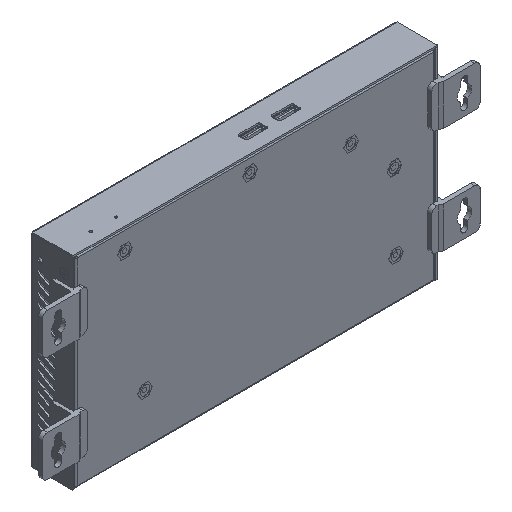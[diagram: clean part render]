
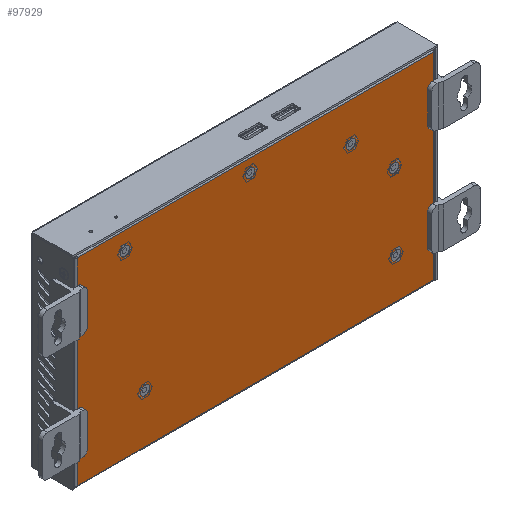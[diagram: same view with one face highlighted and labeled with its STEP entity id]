
A CAD part, isometric view. The second image highlights one B-rep face of the part: STEP entity #97929.
In plain terms, the highlighted planar face has unit normal (0, -1, 0).
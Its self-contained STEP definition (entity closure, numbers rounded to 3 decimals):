
#91171=DIRECTION('',(1.,0.,0.));
#91172=VECTOR('',#91171,210.114);
#91173=CARTESIAN_POINT('',(-259.857,0.285,-3.2));
#91174=LINE('',#91173,#91172);
#92532=DIRECTION('',(0.,0.,1.));
#92533=VECTOR('',#92532,0.2);
#92534=CARTESIAN_POINT('',(-49.743,0.285,-3.2));
#92535=LINE('',#92534,#92533);
#92539=CARTESIAN_POINT('',(-49.243,0.285,-3.));
#92540=DIRECTION('',(0.,1.,0.));
#92541=DIRECTION('',(-0.814,0.,-0.581));
#92542=AXIS2_PLACEMENT_3D('',#92539,#92540,#92541);
#92547=CARTESIAN_POINT('',(-260.357,0.285,-3.));
#92548=DIRECTION('',(0.,1.,0.));
#92549=DIRECTION('',(1.,0.,0.));
#92550=AXIS2_PLACEMENT_3D('',#92547,#92548,#92549);
#92555=DIRECTION('',(0.,0.,1.));
#92556=VECTOR('',#92555,0.2);
#92557=CARTESIAN_POINT('',(-259.857,0.285,-3.2));
#92558=LINE('',#92557,#92556);
#92562=CARTESIAN_POINT('',(-72.8,0.285,-51.));
#92563=DIRECTION('',(0.,1.,0.));
#92564=DIRECTION('',(-1.,0.,0.));
#92565=AXIS2_PLACEMENT_3D('',#92562,#92563,#92564);
#92570=CARTESIAN_POINT('',(-72.8,0.285,-51.));
#92571=DIRECTION('',(0.,1.,0.));
#92572=DIRECTION('',(1.,0.,0.));
#92573=AXIS2_PLACEMENT_3D('',#92570,#92571,#92572);
#92578=CARTESIAN_POINT('',(-219.8,0.285,-91.));
#92579=DIRECTION('',(0.,1.,0.));
#92580=DIRECTION('',(-1.,0.,0.));
#92581=AXIS2_PLACEMENT_3D('',#92578,#92579,#92580);
#92586=CARTESIAN_POINT('',(-219.8,0.285,-91.));
#92587=DIRECTION('',(0.,1.,0.));
#92588=DIRECTION('',(1.,0.,0.));
#92589=AXIS2_PLACEMENT_3D('',#92586,#92587,#92588);
#92594=CARTESIAN_POINT('',(-71.8,0.285,-96.));
#92595=DIRECTION('',(0.,1.,0.));
#92596=DIRECTION('',(-1.,0.,0.));
#92597=AXIS2_PLACEMENT_3D('',#92594,#92595,#92596);
#92602=CARTESIAN_POINT('',(-71.8,0.285,-96.));
#92603=DIRECTION('',(0.,1.,0.));
#92604=DIRECTION('',(1.,0.,0.));
#92605=AXIS2_PLACEMENT_3D('',#92602,#92603,#92604);
#92610=CARTESIAN_POINT('',(-98.3,0.285,-26.));
#92611=DIRECTION('',(0.,1.,0.));
#92612=DIRECTION('',(-1.,0.,0.));
#92613=AXIS2_PLACEMENT_3D('',#92610,#92611,#92612);
#92618=CARTESIAN_POINT('',(-98.3,0.285,-26.));
#92619=DIRECTION('',(0.,1.,0.));
#92620=DIRECTION('',(1.,0.,0.));
#92621=AXIS2_PLACEMENT_3D('',#92618,#92619,#92620);
#92626=CARTESIAN_POINT('',(-231.63,0.285,-14.));
#92627=DIRECTION('',(0.,1.,0.));
#92628=DIRECTION('',(-1.,0.,0.));
#92629=AXIS2_PLACEMENT_3D('',#92626,#92627,#92628);
#92634=CARTESIAN_POINT('',(-231.63,0.285,-14.));
#92635=DIRECTION('',(0.,1.,0.));
#92636=DIRECTION('',(1.,0.,0.));
#92637=AXIS2_PLACEMENT_3D('',#92634,#92635,#92636);
#92642=CARTESIAN_POINT('',(-157.8,0.285,-11.));
#92643=DIRECTION('',(0.,1.,0.));
#92644=DIRECTION('',(-1.,0.,0.));
#92645=AXIS2_PLACEMENT_3D('',#92642,#92643,#92644);
#92650=CARTESIAN_POINT('',(-157.8,0.285,-11.));
#92651=DIRECTION('',(0.,1.,0.));
#92652=DIRECTION('',(1.,0.,0.));
#92653=AXIS2_PLACEMENT_3D('',#92650,#92651,#92652);
#92692=DIRECTION('',(0.,0.,-1.));
#92693=VECTOR('',#92692,116.31);
#92694=CARTESIAN_POINT('',(-49.65,0.285,-3.29));
#92695=LINE('',#92694,#92693);
#93901=DIRECTION('',(-1.,0.,0.));
#93902=VECTOR('',#93901,210.3);
#93903=CARTESIAN_POINT('',(-49.65,0.285,-119.6));
#93904=LINE('',#93903,#93902);
#93920=DIRECTION('',(0.,0.,1.));
#93921=VECTOR('',#93920,116.31);
#93922=CARTESIAN_POINT('',(-259.95,0.285,-119.6));
#93923=LINE('',#93922,#93921);
#95676=CARTESIAN_POINT('',(-49.65,0.285,-119.6));
#95677=CARTESIAN_POINT('',(-259.95,0.285,-119.6));
#95678=VERTEX_POINT('',#95676);
#95679=VERTEX_POINT('',#95677);
#95704=CARTESIAN_POINT('',(-259.857,0.285,-3.));
#95705=CARTESIAN_POINT('',(-259.95,0.285,-3.29));
#95706=VERTEX_POINT('',#95704);
#95707=VERTEX_POINT('',#95705);
#95708=CARTESIAN_POINT('',(-49.65,0.285,-3.29));
#95709=CARTESIAN_POINT('',(-49.743,0.285,-3.));
#95710=VERTEX_POINT('',#95708);
#95711=VERTEX_POINT('',#95709);
#95742=CARTESIAN_POINT('',(-259.857,0.285,-3.2));
#95743=VERTEX_POINT('',#95742);
#95746=CARTESIAN_POINT('',(-49.743,0.285,-3.2));
#95747=VERTEX_POINT('',#95746);
#96084=CARTESIAN_POINT('',(-234.33,0.285,-14.));
#96085=CARTESIAN_POINT('',(-228.93,0.285,-14.));
#96086=VERTEX_POINT('',#96084);
#96087=VERTEX_POINT('',#96085);
#96088=CARTESIAN_POINT('',(-101.,0.285,-26.));
#96089=CARTESIAN_POINT('',(-95.6,0.285,-26.));
#96090=VERTEX_POINT('',#96088);
#96091=VERTEX_POINT('',#96089);
#96092=CARTESIAN_POINT('',(-74.5,0.285,-96.));
#96093=CARTESIAN_POINT('',(-69.1,0.285,-96.));
#96094=VERTEX_POINT('',#96092);
#96095=VERTEX_POINT('',#96093);
#96096=CARTESIAN_POINT('',(-222.5,0.285,-91.));
#96097=CARTESIAN_POINT('',(-217.1,0.285,-91.));
#96098=VERTEX_POINT('',#96096);
#96099=VERTEX_POINT('',#96097);
#96100=CARTESIAN_POINT('',(-75.5,0.285,-51.));
#96101=CARTESIAN_POINT('',(-70.1,0.285,-51.));
#96102=VERTEX_POINT('',#96100);
#96103=VERTEX_POINT('',#96101);
#96108=CARTESIAN_POINT('',(-160.5,0.285,-11.));
#96109=CARTESIAN_POINT('',(-155.1,0.285,-11.));
#96110=VERTEX_POINT('',#96108);
#96111=VERTEX_POINT('',#96109);
#97875=CARTESIAN_POINT('',(-154.8,0.285,-61.));
#97876=DIRECTION('',(0.,1.,0.));
#97877=DIRECTION('',(1.,0.,0.));
#97878=AXIS2_PLACEMENT_3D('',#97875,#97876,#97877);
#97879=PLANE('',#97878);
#97880=ORIENTED_EDGE('',*,*,#96570,.T.);
#97881=ORIENTED_EDGE('',*,*,#96613,.T.);
#97882=ORIENTED_EDGE('',*,*,#96627,.F.);
#97884=ORIENTED_EDGE('',*,*,#97883,.T.);
#97886=ORIENTED_EDGE('',*,*,#97885,.T.);
#97888=ORIENTED_EDGE('',*,*,#97887,.T.);
#97889=ORIENTED_EDGE('',*,*,#97804,.F.);
#97890=ORIENTED_EDGE('',*,*,#97818,.F.);
#97891=EDGE_LOOP('',(#97880,#97881,#97882,#97884,#97886,#97888,#97889,#97890));
#97892=FACE_OUTER_BOUND('',#97891,.F.);
#97894=ORIENTED_EDGE('',*,*,#97893,.F.);
#97896=ORIENTED_EDGE('',*,*,#97895,.F.);
#97897=EDGE_LOOP('',(#97894,#97896));
#97898=FACE_BOUND('',#97897,.F.);
#97900=ORIENTED_EDGE('',*,*,#97899,.F.);
#97902=ORIENTED_EDGE('',*,*,#97901,.F.);
#97903=EDGE_LOOP('',(#97900,#97902));
#97904=FACE_BOUND('',#97903,.F.);
#97906=ORIENTED_EDGE('',*,*,#97905,.F.);
#97908=ORIENTED_EDGE('',*,*,#97907,.F.);
#97909=EDGE_LOOP('',(#97906,#97908));
#97910=FACE_BOUND('',#97909,.F.);
#97912=ORIENTED_EDGE('',*,*,#97911,.F.);
#97914=ORIENTED_EDGE('',*,*,#97913,.F.);
#97915=EDGE_LOOP('',(#97912,#97914));
#97916=FACE_BOUND('',#97915,.F.);
#97918=ORIENTED_EDGE('',*,*,#97917,.F.);
#97920=ORIENTED_EDGE('',*,*,#97919,.F.);
#97921=EDGE_LOOP('',(#97918,#97920));
#97922=FACE_BOUND('',#97921,.F.);
#97924=ORIENTED_EDGE('',*,*,#97923,.F.);
#97926=ORIENTED_EDGE('',*,*,#97925,.F.);
#97927=EDGE_LOOP('',(#97924,#97926));
#97928=FACE_BOUND('',#97927,.F.);
#92543=CIRCLE('',#92542,0.5);
#92551=CIRCLE('',#92550,0.5);
#92566=CIRCLE('',#92565,2.7);
#92574=CIRCLE('',#92573,2.7);
#92582=CIRCLE('',#92581,2.7);
#92590=CIRCLE('',#92589,2.7);
#92598=CIRCLE('',#92597,2.7);
#92606=CIRCLE('',#92605,2.7);
#92614=CIRCLE('',#92613,2.7);
#92622=CIRCLE('',#92621,2.7);
#92630=CIRCLE('',#92629,2.7);
#92638=CIRCLE('',#92637,2.7);
#92646=CIRCLE('',#92645,2.7);
#92654=CIRCLE('',#92653,2.7);
#96570=EDGE_CURVE('',#95743,#95747,#91174,.T.);
#96613=EDGE_CURVE('',#95747,#95711,#92535,.T.);
#96627=EDGE_CURVE('',#95710,#95711,#92543,.T.);
#97804=EDGE_CURVE('',#95706,#95707,#92551,.T.);
#97818=EDGE_CURVE('',#95743,#95706,#92558,.T.);
#97883=EDGE_CURVE('',#95710,#95678,#92695,.T.);
#97885=EDGE_CURVE('',#95678,#95679,#93904,.T.);
#97887=EDGE_CURVE('',#95679,#95707,#93923,.T.);
#97893=EDGE_CURVE('',#96102,#96103,#92566,.T.);
#97895=EDGE_CURVE('',#96103,#96102,#92574,.T.);
#97899=EDGE_CURVE('',#96098,#96099,#92582,.T.);
#97901=EDGE_CURVE('',#96099,#96098,#92590,.T.);
#97905=EDGE_CURVE('',#96094,#96095,#92598,.T.);
#97907=EDGE_CURVE('',#96095,#96094,#92606,.T.);
#97911=EDGE_CURVE('',#96090,#96091,#92614,.T.);
#97913=EDGE_CURVE('',#96091,#96090,#92622,.T.);
#97917=EDGE_CURVE('',#96086,#96087,#92630,.T.);
#97919=EDGE_CURVE('',#96087,#96086,#92638,.T.);
#97923=EDGE_CURVE('',#96110,#96111,#92646,.T.);
#97925=EDGE_CURVE('',#96111,#96110,#92654,.T.);
#97929=ADVANCED_FACE('',(#97892,#97898,#97904,#97910,#97916,#97922,#97928),
#97879,.F.);
